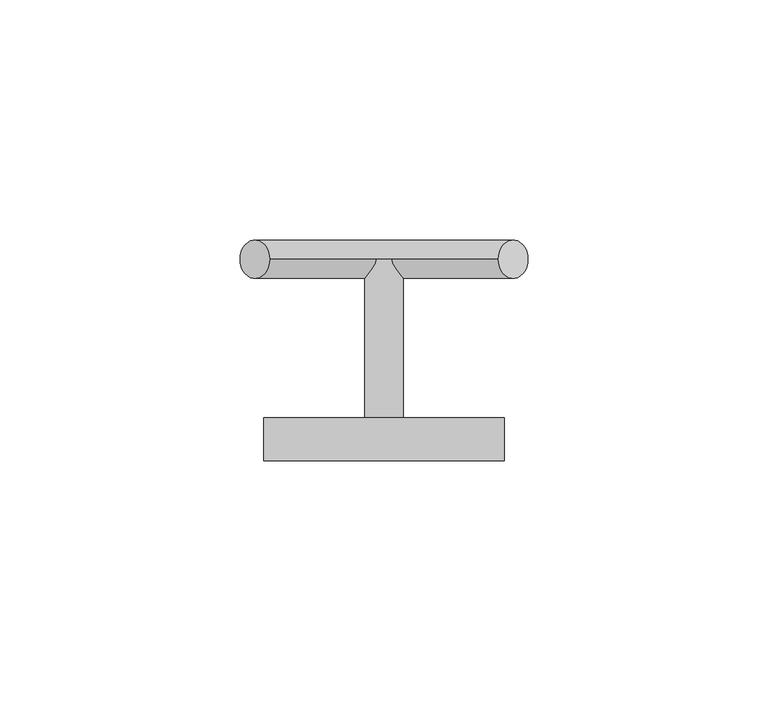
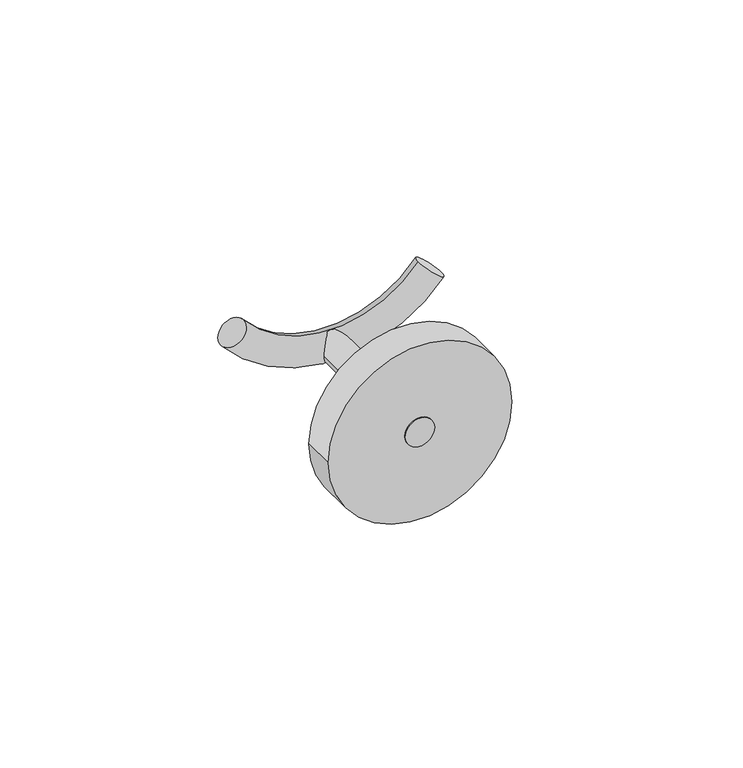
"""IFC4 building model written with IfcOpenShell, lengths in millimetres: flow terminal geometry, Toallero gancho Dica 1006 : Toallero gancho Dica 1006."""

from ifc_helpers import new_model, si_unit, point, frame, frame_2d, origin, place, context, project, spatial, circle_curve, ellipse_curve, trimmed, segment, composite_curve, outline, extrude, source, transform, mapped, element, save
from ifc_brep_helpers import plane_surface, revolved_surface, advanced_brep


def flow_terminal_6881f88f(model_context):
    return source(origin(), model_context, "Body", "SolidModel", [
        extrude(outline(composite_curve([segment(trimmed(circle_curve(frame_2d((0.0, 125.0)), 4.0), [point((0.0, 121.0))], [point((0.0, 129.0))], False, "CARTESIAN"), True, "CONTINUOUS"), segment(trimmed(circle_curve(frame_2d((0.0, 125.0)), 4.0), [point((0.0, 129.0))], [point((0.0, 121.0))], False, "CARTESIAN"), True, "CONTINUOUS")], self_intersect=False)), frame((0.0, 70.0, 0.0), z_axis=(0.0, 1.0, 0.0), x_axis=(0.0, 0.0, 1.0)), (0.0, 0.0, 1.0), 41.9477391),
        extrude(outline(composite_curve([segment(trimmed(circle_curve(frame_2d((0.0, 125.0)), 25.0), [point((0.0, 100.0))], [point((0.0, 150.0))], False, "CARTESIAN"), True, "CONTINUOUS"), segment(trimmed(circle_curve(frame_2d((0.0, 125.0)), 25.0), [point((0.0, 150.0))], [point((0.0, 100.0))], False, "CARTESIAN"), True, "CONTINUOUS")], self_intersect=False)), frame((0.0, 70.0, 0.0), z_axis=(0.0, 1.0, 0.0), x_axis=(0.0, 0.0, 1.0)), (0.0, 0.0, 1.0), 8.9918697),
        advanced_brep(
        [(148.794894, 111.9477391, 15.1860733), (154.9551537, 111.9477391, 10.0820356), (101.205106, 111.9477391, 15.1860733), (95.0448463, 111.9477391, 10.0820356)],
        [
            (0, 1, circle_curve(frame((151.8750238, 111.9477391, 12.6340545), z_axis=(0.6380047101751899, 0.0, 0.7700324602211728), x_axis=(0.7700324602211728, 0.0, -0.6380047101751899)), 4.0)),
            (1, 0, circle_curve(frame((151.8750238, 111.9477391, 12.6340545), z_axis=(0.6380047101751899, 0.0, 0.7700324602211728), x_axis=(0.7700324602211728, 0.0, -0.6380047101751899)), 4.0)),
            (2, 3, circle_curve(frame((98.1249762, 111.9477391, 12.6340545), z_axis=(-0.6380047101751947, 0.0, 0.7700324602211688), x_axis=(-0.7700324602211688, 0.0, -0.6380047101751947)), 4.0)),
            (3, 2, circle_curve(frame((98.1249762, 111.9477391, 12.6340545), z_axis=(-0.6380047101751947, 0.0, 0.7700324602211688), x_axis=(-0.7700324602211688, 0.0, -0.6380047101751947)), 4.0)),
            (3, 1, circle_curve(frame((125.0, 111.9477391, 34.901157), z_axis=(0.0, -1.0, 0.0), x_axis=(0.7700324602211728, 0.0, -0.6380047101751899)), 38.901157)),
            (0, 2, circle_curve(frame((125.0, 111.9477391, 34.901157), z_axis=(0.0, 1.0, 0.0), x_axis=(0.7700324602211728, 0.0, -0.6380047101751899)), 30.901157)),
        ],
        [
            plane_surface(frame((151.8750238, 70.0, 12.6340545), z_axis=(0.6380047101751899, 0.0, 0.7700324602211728), x_axis=(0.0, -1.0, 0.0))),
            plane_surface(frame((98.1249762, 70.0, 12.6340545), z_axis=(-0.6380047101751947, 0.0, 0.7700324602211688), x_axis=(0.0, -1.0, 0.0))),
            revolved_surface(trimmed(ellipse_curve(frame((151.8750238, 111.9477391, 12.6340545), z_axis=(0.6380047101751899, 0.0, 0.7700324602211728), x_axis=(0.7700324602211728, 0.0, -0.6380047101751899)), 4.0, 4.0), [point((148.794894, 111.9477391, 15.1860733))], [point((154.9551537, 111.9477391, 10.0820356))], True, "CARTESIAN"), (125.0, 70.0, 34.901157), (0.0, 1.0, 0.0)),
            revolved_surface(trimmed(ellipse_curve(frame((151.8750238, 111.9477391, 12.6340545), z_axis=(0.6380047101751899, 0.0, 0.7700324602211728), x_axis=(0.7700324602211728, 0.0, -0.6380047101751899)), 4.0, 4.0), [point((154.9551537, 111.9477391, 10.0820356))], [point((148.794894, 111.9477391, 15.1860733))], True, "CARTESIAN"), (125.0, 70.0, 34.901157), (0.0, 1.0, 0.0)),
        ],
        [
            (0, [[1, 2]]),
            (1, [[3, 4]]),
            (2, [[5, -1, 6, -4]]),
            (3, [[-6, -2, -5, -3]]),
        ],
    ),
    ])


if __name__ == "__main__":
    model = new_model("IFC4")
    model_context = context("Model", 3, world=origin())
    ifc_project = project(units=[si_unit("LENGTHUNIT", "METRE", prefix="MILLI")], contexts=[model_context])
    site = spatial("IfcSite", under=ifc_project)
    building = spatial("IfcBuilding", under=site)
    placement = place(None, origin())
    flow_terminal_shape = flow_terminal_6881f88f(model_context)
    element("IfcFlowTerminal", 1, ObjectType="Toallero gancho Dica 1006 : Toallero gancho Dica 1006", at=placement, inside=building, context=model_context, shape_type="MappedRepresentation", body=[
        mapped(flow_terminal_shape, transform((0.0, 0.0, 0.0), x_axis=(1.0, 0.0, 0.0), y_axis=(0.0, 1.0, 0.0), z_axis=(0.0, 0.0, 1.0))),
    ])
    save(model, "model.ifc")
